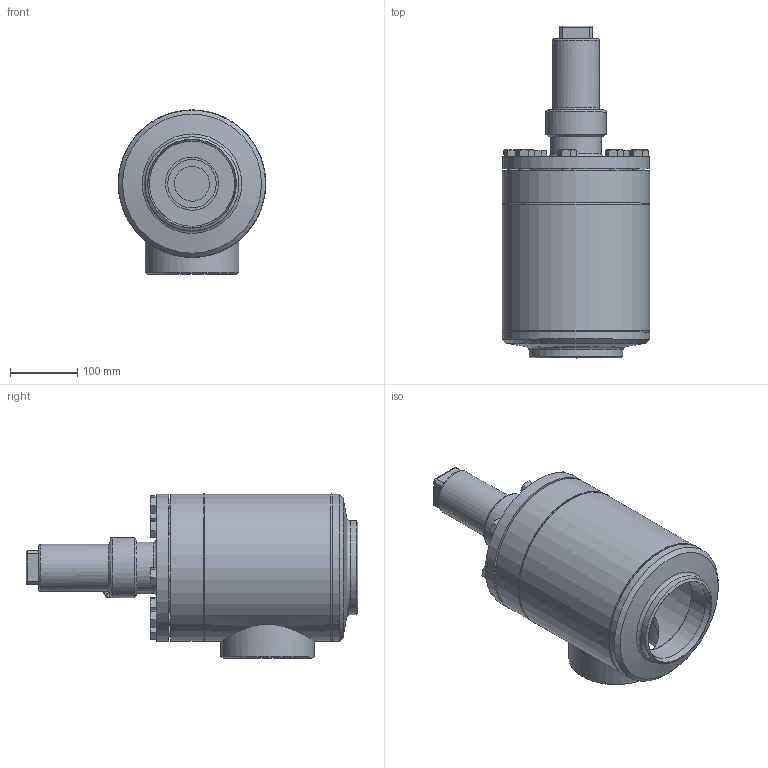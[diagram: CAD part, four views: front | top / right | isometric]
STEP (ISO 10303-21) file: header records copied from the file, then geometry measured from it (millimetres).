
FILE_DESCRIPTION((''),'2;1');
FILE_NAME('Y:\Konstruktion\_3D-SolidWorks_Arbeit (Grams)\___x___Temp\AVB16400D20A5A3AA00_DN125_R1_PS40.stp','2012-01-23T08:30:31',('Jacob.Er'),(''),'Autodesk Inventor 2011','Autodesk Inventor 2011','');
FILE_SCHEMA(('AUTOMOTIVE_DESIGN { 1 0 10303 214 1 1 1 1 }'));
Length unit declared in the file: millimetre
Products named in the file (12): AVB16400D20A5A3AA00_DN125_R1_PS40; Geh,kpl 16300E20-5030AA1_DN125_R1; Gehäuse16300-DN125; Kopfstück16300-DN125; Boden16300-DN125; Rohrstutzen-A16300a-20_R1; bead Geh,kpl 16400-20-1; bead Geh,kpl 16400-20-2; AVB16300E20_Deck+Schr-DN125; Deckel16300E20-DN125; Sechskantschraube-DIN933_M16x 45; Kappe 16402-21_DN125-150 (M76x3)
Assembly tree (18 placements, depth 3):
  AVB16400D20A5A3AA00_DN125_R1_PS40
    Geh,kpl 16300E20-5030AA1_DN125_R1
      Gehäuse16300-DN125
      Kopfstück16300-DN125
      Boden16300-DN125
      Rohrstutzen-A16300a-20_R1
      bead Geh,kpl 16400-20-1
      bead Geh,kpl 16400-20-2
    AVB16300E20_Deck+Schr-DN125
      Deckel16300E20-DN125
      Sechskantschraube-DIN933_M16x 45  x8
    Kappe 16402-21_DN125-150 (M76x3)
Bounding box: 219.51 x 494 x 244.27 mm (x, y, z)
Volume: 5191870.3 mm3; surface area: 804595.9 mm2
Topology: 16 solids, 16 shells, 314 faces, 656 edges, 394 vertices
Faces by surface type: plane 115, cone 113, cylinder 60, bspline 15, torus 11
Full cylindrical faces by diameter (mm): 2 x1, 3 x1, 16 x8, 18 x8, 36.5 x1, 46 x1, 52.1 x1, 54.5 x1, 64 x1, 70 x1, 72 x2, 73 x1, 76 x1, 79 x1, 90 x1, 127 x1, 127.1 x1, 128 x1, 139.7 x2, 140 x2, 160 x2, 194.1 x1, 219 x3, 219.1 x1
Entity records: 5951 total; most frequent: CARTESIAN_POINT 2657, DIRECTION 653, ORIENTED_EDGE 500, AXIS2_PLACEMENT_3D 306, EDGE_CURVE 250, EDGE_LOOP 250, VERTEX_POINT 178, FACE_OUTER_BOUND 153
